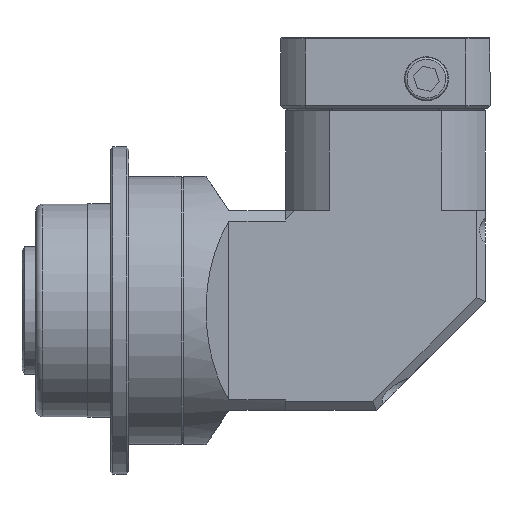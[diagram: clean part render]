
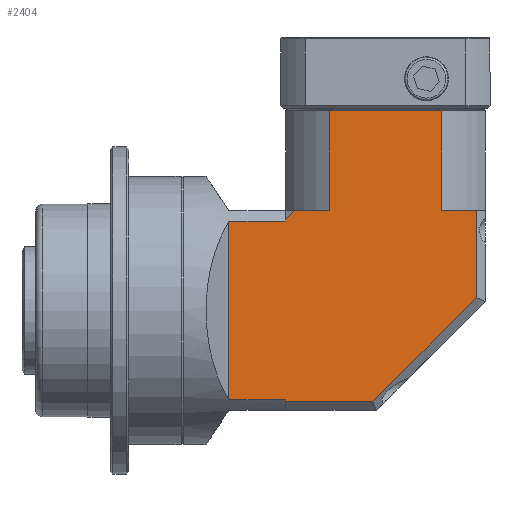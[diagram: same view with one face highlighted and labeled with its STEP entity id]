
A CAD part, left-side view. The second image highlights one B-rep face of the part: STEP entity #2404.
In plain terms, the highlighted planar face has unit normal (-1, 0, 0).
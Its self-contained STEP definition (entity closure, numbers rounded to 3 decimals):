
#715=CARTESIAN_POINT('',(-45.146,-0.798,-26.903));
#716=VERTEX_POINT('',#715);
#724=CARTESIAN_POINT('',(-45.146,11.702,-26.903));
#725=VERTEX_POINT('',#724);
#726=CARTESIAN_POINT('',(-45.146,-0.798,-26.903));
#727=DIRECTION('',(0.0,1.0,0.0));
#728=VECTOR('',#727,12.5);
#729=LINE('',#726,#728);
#730=EDGE_CURVE('',#716,#725,#729,.T.);
#732=CARTESIAN_POINT('',(-45.146,11.702,12.403));
#733=VERTEX_POINT('',#732);
#741=CARTESIAN_POINT('',(-45.146,-0.798,12.403));
#742=VERTEX_POINT('',#741);
#743=CARTESIAN_POINT('',(-45.146,11.702,12.403));
#744=DIRECTION('',(0.0,-1.0,0.0));
#745=VECTOR('',#744,12.5);
#746=LINE('',#743,#745);
#747=EDGE_CURVE('',#733,#742,#746,.T.);
#2252=CARTESIAN_POINT('',(-45.146,-2.798,14.75));
#2253=VERTEX_POINT('',#2252);
#2260=CARTESIAN_POINT('',(-45.146,-10.406,14.75));
#2261=VERTEX_POINT('',#2260);
#2262=CARTESIAN_POINT('',(-45.146,-2.798,14.75));
#2263=DIRECTION('',(0.0,-1.0,0.0));
#2264=VECTOR('',#2263,7.608);
#2265=LINE('',#2262,#2264);
#2266=EDGE_CURVE('',#2253,#2261,#2265,.T.);
#2300=CARTESIAN_POINT('',(-45.146,-0.798,12.75));
#2301=VERTEX_POINT('',#2300);
#2302=CARTESIAN_POINT('',(-45.146,-0.798,12.403));
#2303=DIRECTION('',(0.0,0.0,1.0));
#2304=VECTOR('',#2303,0.347);
#2305=LINE('',#2302,#2304);
#2306=EDGE_CURVE('',#742,#2301,#2305,.T.);
#2319=CARTESIAN_POINT('',(-45.146,-44.798,36.75));
#2320=DIRECTION('',(1.0,0.0,0.0));
#2321=DIRECTION('',(0.0,0.0,-1.0));
#2322=AXIS2_PLACEMENT_3D('',#2319,#2320,#2321);
#2323=PLANE('',#2322);
#2324=CARTESIAN_POINT('',(-45.146,-0.798,12.75));
#2325=DIRECTION('',(0.0,-0.707,0.707));
#2326=VECTOR('',#2325,2.828);
#2327=LINE('',#2324,#2326);
#2328=EDGE_CURVE('',#2301,#2253,#2327,.T.);
#2329=ORIENTED_EDGE('',*,*,#2328,.F.);
#2330=ORIENTED_EDGE('',*,*,#2306,.F.);
#2331=ORIENTED_EDGE('',*,*,#747,.F.);
#2332=CARTESIAN_POINT('',(-45.146,11.702,-26.903));
#2333=DIRECTION('',(0.0,0.0,1.0));
#2334=VECTOR('',#2333,39.306);
#2335=LINE('',#2332,#2334);
#2336=EDGE_CURVE('',#725,#733,#2335,.T.);
#2337=ORIENTED_EDGE('',*,*,#2336,.F.);
#2338=ORIENTED_EDGE('',*,*,#730,.F.);
#2339=CARTESIAN_POINT('',(-45.146,-0.798,-27.25));
#2340=VERTEX_POINT('',#2339);
#2341=CARTESIAN_POINT('',(-45.146,-0.798,-27.25));
#2342=DIRECTION('',(0.0,0.0,1.0));
#2343=VECTOR('',#2342,0.347);
#2344=LINE('',#2341,#2343);
#2345=EDGE_CURVE('',#2340,#716,#2344,.T.);
#2346=ORIENTED_EDGE('',*,*,#2345,.F.);
#2347=CARTESIAN_POINT('',(-45.146,-19.97,-27.25));
#2348=VERTEX_POINT('',#2347);
#2349=CARTESIAN_POINT('',(-45.146,-0.798,-27.25));
#2350=DIRECTION('',(0.0,-1.0,0.0));
#2351=VECTOR('',#2350,19.172);
#2352=LINE('',#2349,#2351);
#2353=EDGE_CURVE('',#2340,#2348,#2352,.T.);
#2354=ORIENTED_EDGE('',*,*,#2353,.T.);
#2355=CARTESIAN_POINT('',(-45.146,-42.798,-4.422));
#2356=VERTEX_POINT('',#2355);
#2357=CARTESIAN_POINT('',(-45.146,-19.97,-27.25));
#2358=DIRECTION('',(0.0,-0.707,0.707));
#2359=VECTOR('',#2358,32.284);
#2360=LINE('',#2357,#2359);
#2361=EDGE_CURVE('',#2348,#2356,#2360,.T.);
#2362=ORIENTED_EDGE('',*,*,#2361,.T.);
#2363=CARTESIAN_POINT('',(-45.146,-42.798,14.75));
#2364=VERTEX_POINT('',#2363);
#2365=CARTESIAN_POINT('',(-45.146,-42.798,-4.422));
#2366=DIRECTION('',(0.0,0.0,1.0));
#2367=VECTOR('',#2366,19.172);
#2368=LINE('',#2365,#2367);
#2369=EDGE_CURVE('',#2356,#2364,#2368,.T.);
#2370=ORIENTED_EDGE('',*,*,#2369,.T.);
#2371=CARTESIAN_POINT('',(-45.146,-35.19,14.75));
#2372=VERTEX_POINT('',#2371);
#2373=CARTESIAN_POINT('',(-45.146,-35.19,14.75));
#2374=DIRECTION('',(0.0,-1.0,0.0));
#2375=VECTOR('',#2374,7.608);
#2376=LINE('',#2373,#2375);
#2377=EDGE_CURVE('',#2372,#2364,#2376,.T.);
#2378=ORIENTED_EDGE('',*,*,#2377,.F.);
#2379=CARTESIAN_POINT('',(-45.146,-35.19,36.75));
#2380=VERTEX_POINT('',#2379);
#2381=CARTESIAN_POINT('',(-45.146,-35.19,36.75));
#2382=DIRECTION('',(0.0,0.0,-1.0));
#2383=VECTOR('',#2382,22.0);
#2384=LINE('',#2381,#2383);
#2385=EDGE_CURVE('',#2380,#2372,#2384,.T.);
#2386=ORIENTED_EDGE('',*,*,#2385,.F.);
#2387=CARTESIAN_POINT('',(-45.146,-10.406,36.75));
#2388=VERTEX_POINT('',#2387);
#2389=CARTESIAN_POINT('',(-45.146,-10.406,36.75));
#2390=DIRECTION('',(0.0,-1.0,0.0));
#2391=VECTOR('',#2390,24.784);
#2392=LINE('',#2389,#2391);
#2393=EDGE_CURVE('',#2388,#2380,#2392,.T.);
#2394=ORIENTED_EDGE('',*,*,#2393,.F.);
#2395=CARTESIAN_POINT('',(-45.146,-10.406,14.75));
#2396=DIRECTION('',(0.0,0.0,1.0));
#2397=VECTOR('',#2396,22.0);
#2398=LINE('',#2395,#2397);
#2399=EDGE_CURVE('',#2261,#2388,#2398,.T.);
#2400=ORIENTED_EDGE('',*,*,#2399,.F.);
#2401=ORIENTED_EDGE('',*,*,#2266,.F.);
#2402=EDGE_LOOP('',(#2329,#2330,#2331,#2337,#2338,#2346,#2354,#2362,#2370,#2378,#2386,#2394,#2400,#2401));
#2403=FACE_OUTER_BOUND('',#2402,.T.);
#2404=ADVANCED_FACE('',(#2403),#2323,.F.);
